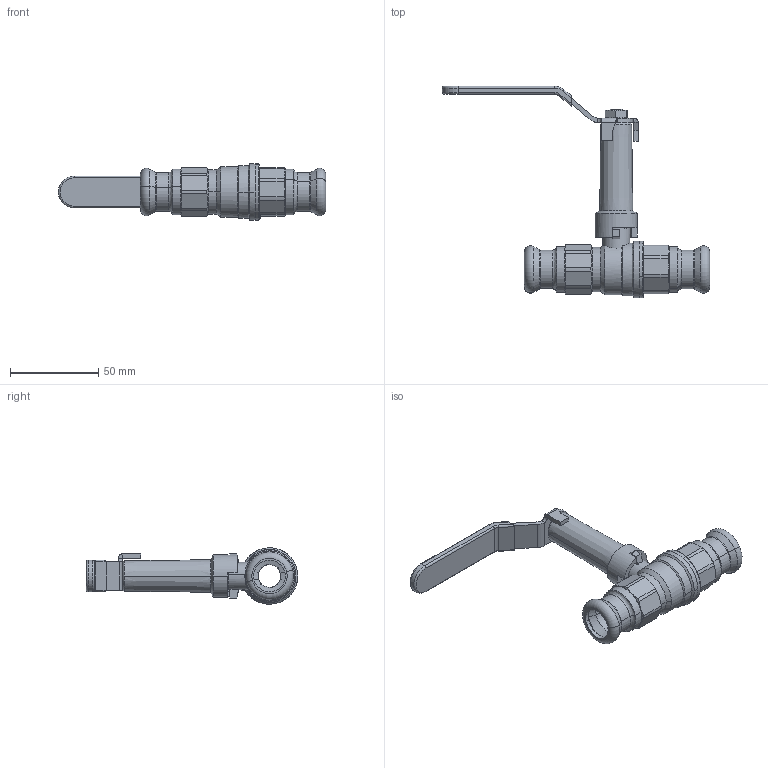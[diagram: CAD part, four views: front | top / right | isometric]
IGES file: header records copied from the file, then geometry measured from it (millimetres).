
Global section: file name: No Iges File Name specified; native system: AutoDesk Inventor R12.0; preprocessor: AutoDesk Inventor Iges Exporter R12.0; date: 20120118.143955; units: millimetre
Bounding box: 151.4 x 119.8 x 32 mm (x, y, z)
Volume: 59208.1 mm3; surface area: 38531.4 mm2
Topology: 1 solids, 11 shells, 640 faces, 2100 edges, 1550 vertices
Faces by surface type: plane 255, revolution 128, cylinder 93, cone 89, torus 42, bspline 29, sphere 4
